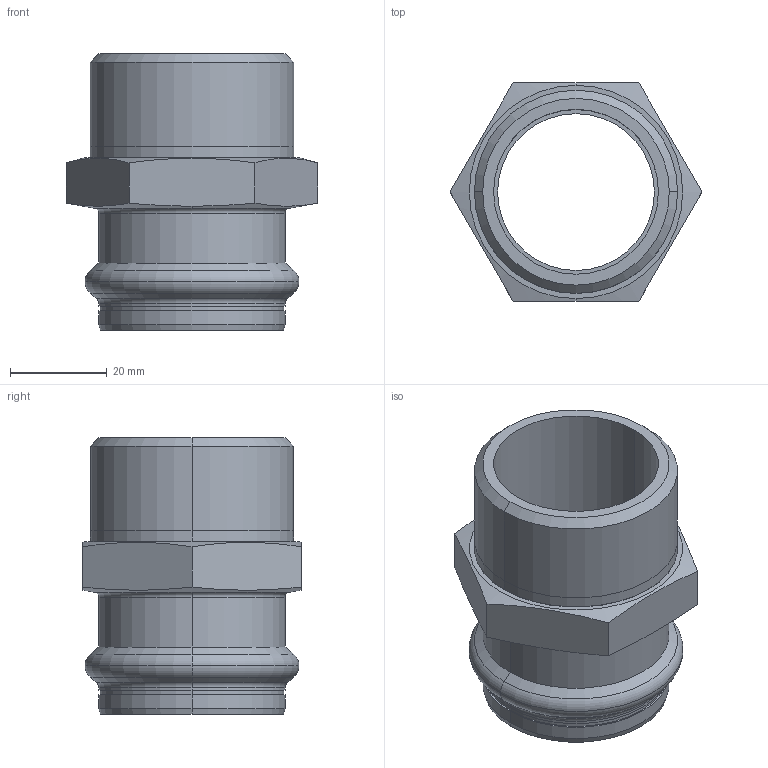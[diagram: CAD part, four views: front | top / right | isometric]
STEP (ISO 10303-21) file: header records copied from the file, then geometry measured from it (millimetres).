
FILE_DESCRIPTION(('CoCreate Modeling STEP Export'),'2;1');
FILE_NAME('8243GVW35114.stp','2013-03-05T10:56:34',(''),(''),'CoCreate Modeling STEP processor for AP214 (Solid Model)','CoCreate Modeling 17.00A 17-Jun-2010 (C) Parametric Technology GmbH','');
FILE_SCHEMA(('AUTOMOTIVE_DESIGN { 1 0 10303 214 1 1 1 1 }'));
Length unit declared in the file: millimetre
Products named in the file (1): 8243GVW35114
Bounding box: 51.96 x 45 x 57 mm (x, y, z)
Volume: 24905.9 mm3; surface area: 15703.5 mm2
Topology: 1 solids, 1 shells, 59 faces, 132 edges, 80 vertices
Faces by surface type: cylinder 22, cone 16, plane 13, torus 8
Entity records: 2114 total; most frequent: CARTESIAN_POINT 958, ORIENTED_EDGE 264, DIRECTION 186, EDGE_CURVE 132, VERTEX_POINT 80, AXIS2_PLACEMENT_3D 71, EDGE_LOOP 66, FACE_OUTER_BOUND 59
